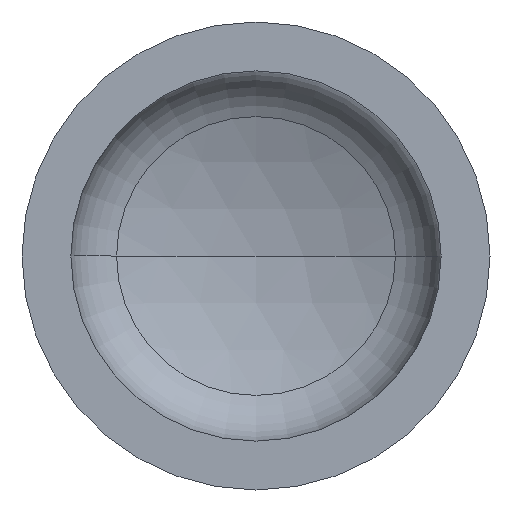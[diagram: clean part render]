
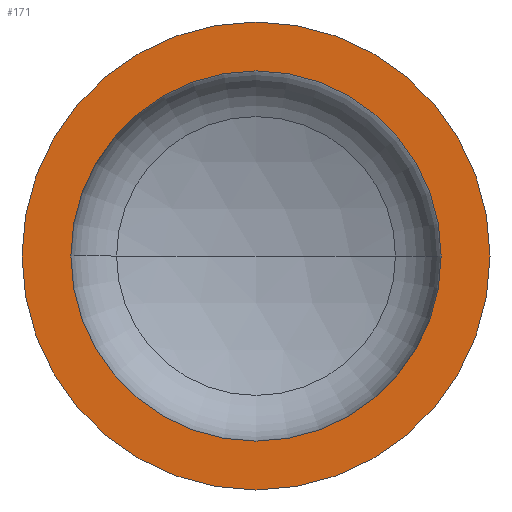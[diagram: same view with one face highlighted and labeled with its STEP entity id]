
A CAD part, front view. The second image highlights one B-rep face of the part: STEP entity #171.
In plain terms, the highlighted planar face has unit normal (0, -1, 0).
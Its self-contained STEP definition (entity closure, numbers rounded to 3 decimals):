
#6 = VERTEX_POINT ( 'NONE', #141 ) ;
#32 = CIRCLE ( 'NONE', #400, 356. ) ;
#35 = VERTEX_POINT ( 'NONE', #197 ) ;
#41 = AXIS2_PLACEMENT_3D ( 'NONE', #217, #317, #312 ) ;
#46 = ORIENTED_EDGE ( 'NONE', *, *, #403, .F. ) ;
#52 = AXIS2_PLACEMENT_3D ( 'NONE', #94, #183, #389 ) ;
#59 = AXIS2_PLACEMENT_3D ( 'NONE', #274, #249, #287 ) ;
#64 = ORIENTED_EDGE ( 'NONE', *, *, #72, .T. ) ;
#65 = AXIS2_PLACEMENT_3D ( 'NONE', #299, #153, #337 ) ;
#66 = DIRECTION ( 'NONE',  ( 0., -1., 0. ) ) ;
#70 = ORIENTED_EDGE ( 'NONE', *, *, #83, .F. ) ;
#72 = EDGE_CURVE ( 'NONE', #35, #158, #173, .T. ) ;
#78 = EDGE_CURVE ( 'NONE', #158, #35, #364, .T. ) ;
#83 = EDGE_CURVE ( 'NONE', #6, #93, #232, .T. ) ;
#93 = VERTEX_POINT ( 'NONE', #230 ) ;
#94 = CARTESIAN_POINT ( 'NONE',  ( 0., 0., 0. ) ) ;
#108 = ORIENTED_EDGE ( 'NONE', *, *, #78, .T. ) ;
#123 = EDGE_LOOP ( 'NONE', ( #64, #108 ) ) ;
#138 = EDGE_LOOP ( 'NONE', ( #70, #46 ) ) ;
#141 = CARTESIAN_POINT ( 'NONE',  ( 356., 0., 0. ) ) ;
#153 = DIRECTION ( 'NONE',  ( 0., -1., 0. ) ) ;
#158 = VERTEX_POINT ( 'NONE', #260 ) ;
#171 = ADVANCED_FACE ( 'NONE', ( #361, #356 ), #240, .F. ) ;
#173 = CIRCLE ( 'NONE', #65, 450. ) ;
#183 = DIRECTION ( 'NONE',  ( 0., -1., 0. ) ) ;
#197 = CARTESIAN_POINT ( 'NONE',  ( 450., 0., 0. ) ) ;
#214 = DIRECTION ( 'NONE',  ( 1., 0., 0. ) ) ;
#217 = CARTESIAN_POINT ( 'NONE',  ( -450., 0., 0. ) ) ;
#230 = CARTESIAN_POINT ( 'NONE',  ( -356., 0., 0. ) ) ;
#232 = CIRCLE ( 'NONE', #52, 356. ) ;
#240 = PLANE ( 'NONE',  #41 ) ;
#249 = DIRECTION ( 'NONE',  ( 0., -1., 0. ) ) ;
#260 = CARTESIAN_POINT ( 'NONE',  ( -450., 0., 0. ) ) ;
#274 = CARTESIAN_POINT ( 'NONE',  ( 0., 0., 0. ) ) ;
#287 = DIRECTION ( 'NONE',  ( 1., 0., 0. ) ) ;
#299 = CARTESIAN_POINT ( 'NONE',  ( 0., 0., 0. ) ) ;
#312 = DIRECTION ( 'NONE',  ( -1., 0., 0. ) ) ;
#317 = DIRECTION ( 'NONE',  ( 0., 1., 0. ) ) ;
#337 = DIRECTION ( 'NONE',  ( 1., 0., 0. ) ) ;
#356 = FACE_OUTER_BOUND ( 'NONE', #123, .T. ) ;
#361 = FACE_BOUND ( 'NONE', #138, .T. ) ;
#364 = CIRCLE ( 'NONE', #59, 450. ) ;
#389 = DIRECTION ( 'NONE',  ( 1., 0., 0. ) ) ;
#400 = AXIS2_PLACEMENT_3D ( 'NONE', #409, #66, #214 ) ;
#403 = EDGE_CURVE ( 'NONE', #93, #6, #32, .T. ) ;
#409 = CARTESIAN_POINT ( 'NONE',  ( 0., 0., 0. ) ) ;
